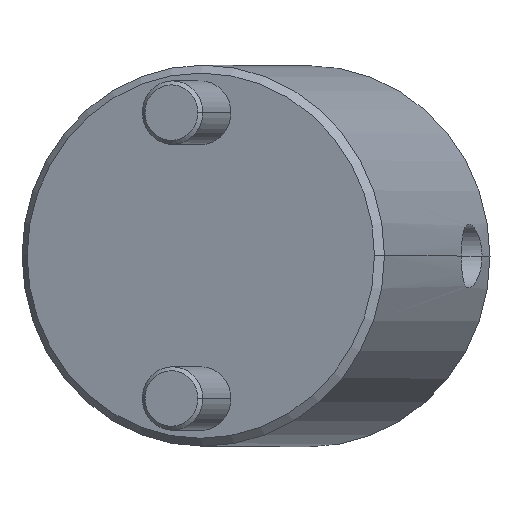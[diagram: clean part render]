
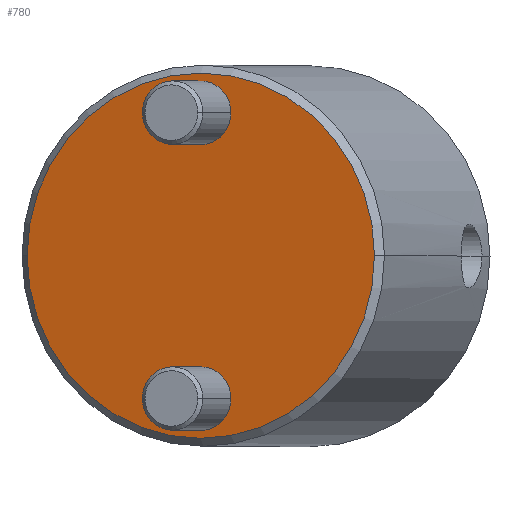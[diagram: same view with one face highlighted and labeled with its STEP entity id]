
A CAD part, top view. The second image highlights one B-rep face of the part: STEP entity #780.
In plain terms, the highlighted planar face has unit normal (-0.309, 0, 0.951) as drawn and (0, 0, -1) by its records, which use the part's own axes.
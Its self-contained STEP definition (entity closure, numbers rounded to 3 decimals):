
#2 = DIRECTION ( 'NONE',  ( -1., 0., 0. ) ) ;
#13 = CIRCLE ( 'NONE', #1018, 4. ) ;
#25 = CARTESIAN_POINT ( 'NONE',  ( 0., -18., 0. ) ) ;
#40 = CIRCLE ( 'NONE', #705, 23. ) ;
#42 = CARTESIAN_POINT ( 'NONE',  ( -23., 0., 0. ) ) ;
#43 = VERTEX_POINT ( 'NONE', #42 ) ;
#104 = CARTESIAN_POINT ( 'NONE',  ( 4., 18., 0. ) ) ;
#135 = VERTEX_POINT ( 'NONE', #1005 ) ;
#141 = DIRECTION ( 'NONE',  ( 0., 0., -1. ) ) ;
#163 = CARTESIAN_POINT ( 'NONE',  ( 0., 0., 0. ) ) ;
#180 = CARTESIAN_POINT ( 'NONE',  ( 4., -18., 0. ) ) ;
#217 = AXIS2_PLACEMENT_3D ( 'NONE', #1001, #141, #387 ) ;
#220 = EDGE_CURVE ( 'NONE', #43, #693, #40, .T. ) ;
#224 = CIRCLE ( 'NONE', #1126, 4. ) ;
#245 = EDGE_CURVE ( 'NONE', #1231, #1145, #224, .T. ) ;
#275 = DIRECTION ( 'NONE',  ( 0., 0., 1. ) ) ;
#295 = CARTESIAN_POINT ( 'NONE',  ( 0., 18., 0. ) ) ;
#306 = CARTESIAN_POINT ( 'NONE',  ( 0., 0., 0. ) ) ;
#387 = DIRECTION ( 'NONE',  ( -1., 0., 0. ) ) ;
#413 = DIRECTION ( 'NONE',  ( 1., 0., 0. ) ) ;
#414 = FACE_BOUND ( 'NONE', #812, .T. ) ;
#488 = FACE_BOUND ( 'NONE', #1082, .T. ) ;
#491 = EDGE_CURVE ( 'NONE', #693, #43, #1281, .T. ) ;
#499 = AXIS2_PLACEMENT_3D ( 'NONE', #306, #650, #1247 ) ;
#577 = EDGE_LOOP ( 'NONE', ( #1061, #1186 ) ) ;
#580 = AXIS2_PLACEMENT_3D ( 'NONE', #163, #275, #1384 ) ;
#607 = AXIS2_PLACEMENT_3D ( 'NONE', #25, #975, #971 ) ;
#608 = EDGE_CURVE ( 'NONE', #732, #135, #1448, .T. ) ;
#650 = DIRECTION ( 'NONE',  ( 0., 0., 1. ) ) ;
#656 = PLANE ( 'NONE',  #580 ) ;
#672 = CARTESIAN_POINT ( 'NONE',  ( -4., 18., 0. ) ) ;
#693 = VERTEX_POINT ( 'NONE', #1310 ) ;
#705 = AXIS2_PLACEMENT_3D ( 'NONE', #1365, #1484, #413 ) ;
#732 = VERTEX_POINT ( 'NONE', #180 ) ;
#780 = ADVANCED_FACE ( 'NONE', ( #488, #414, #1414 ), #656, .F. ) ;
#799 = EDGE_CURVE ( 'NONE', #135, #732, #1178, .T. ) ;
#812 = EDGE_LOOP ( 'NONE', ( #1316, #1398 ) ) ;
#824 = CARTESIAN_POINT ( 'NONE',  ( 0., 18., 0. ) ) ;
#843 = DIRECTION ( 'NONE',  ( 0., 0., -1. ) ) ;
#914 = ORIENTED_EDGE ( 'NONE', *, *, #245, .F. ) ;
#931 = DIRECTION ( 'NONE',  ( -1., 0., 0. ) ) ;
#971 = DIRECTION ( 'NONE',  ( -1., 0., 0. ) ) ;
#975 = DIRECTION ( 'NONE',  ( 0., 0., -1. ) ) ;
#1001 = CARTESIAN_POINT ( 'NONE',  ( 0., -18., 0. ) ) ;
#1005 = CARTESIAN_POINT ( 'NONE',  ( -4., -18., 0. ) ) ;
#1018 = AXIS2_PLACEMENT_3D ( 'NONE', #824, #843, #2 ) ;
#1061 = ORIENTED_EDGE ( 'NONE', *, *, #491, .F. ) ;
#1082 = EDGE_LOOP ( 'NONE', ( #1266, #914 ) ) ;
#1126 = AXIS2_PLACEMENT_3D ( 'NONE', #295, #1260, #931 ) ;
#1145 = VERTEX_POINT ( 'NONE', #672 ) ;
#1178 = CIRCLE ( 'NONE', #217, 4. ) ;
#1186 = ORIENTED_EDGE ( 'NONE', *, *, #220, .F. ) ;
#1231 = VERTEX_POINT ( 'NONE', #104 ) ;
#1247 = DIRECTION ( 'NONE',  ( 1., 0., 0. ) ) ;
#1260 = DIRECTION ( 'NONE',  ( 0., 0., -1. ) ) ;
#1266 = ORIENTED_EDGE ( 'NONE', *, *, #1273, .F. ) ;
#1273 = EDGE_CURVE ( 'NONE', #1145, #1231, #13, .T. ) ;
#1281 = CIRCLE ( 'NONE', #499, 23. ) ;
#1310 = CARTESIAN_POINT ( 'NONE',  ( 23., 0., 0. ) ) ;
#1316 = ORIENTED_EDGE ( 'NONE', *, *, #799, .F. ) ;
#1365 = CARTESIAN_POINT ( 'NONE',  ( 0., 0., 0. ) ) ;
#1384 = DIRECTION ( 'NONE',  ( 1., 0., 0. ) ) ;
#1398 = ORIENTED_EDGE ( 'NONE', *, *, #608, .F. ) ;
#1414 = FACE_OUTER_BOUND ( 'NONE', #577, .T. ) ;
#1448 = CIRCLE ( 'NONE', #607, 4. ) ;
#1484 = DIRECTION ( 'NONE',  ( 0., 0., 1. ) ) ;
